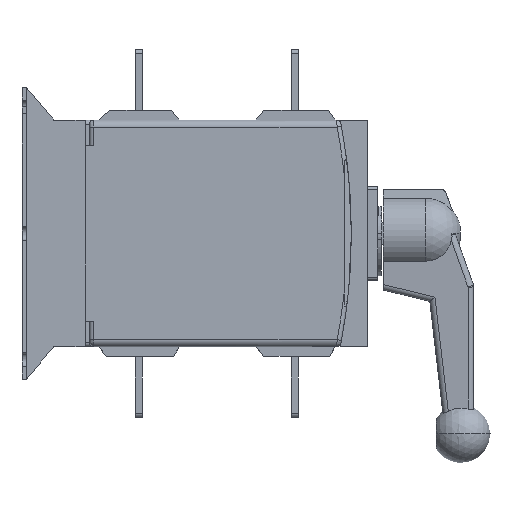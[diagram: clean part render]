
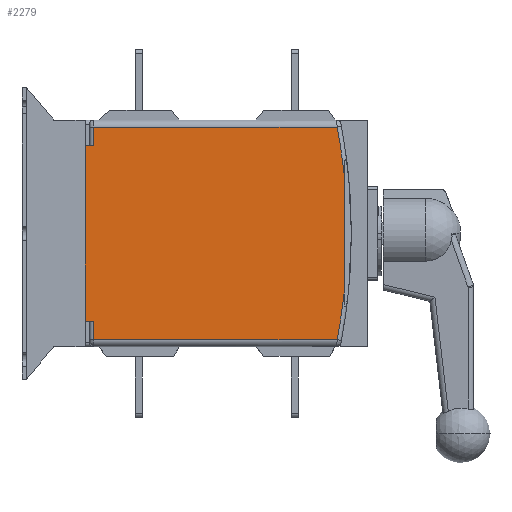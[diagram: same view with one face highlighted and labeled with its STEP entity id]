
A CAD part, left-side view. The second image highlights one B-rep face of the part: STEP entity #2279.
In plain terms, the highlighted planar face has unit normal (-1, 0, 0).
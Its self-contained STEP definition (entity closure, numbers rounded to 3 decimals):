
#152=CARTESIAN_POINT('',(-115.,-174.917,
-75.));
#173=DIRECTION('',(0.,-1.,0.));
#174=VECTOR('',#173,171.917);
#175=CARTESIAN_POINT('',(-115.,-3.,-75.));
#176=LINE('',#175,#174);
#270=CARTESIAN_POINT('',(-115.,-179.77,
-42.078));
#353=DIRECTION('',(0.,0.,1.));
#354=VECTOR('',#353,84.151);
#355=CARTESIAN_POINT('',(-115.,-179.77,
-42.078));
#356=LINE('',#355,#354);
#433=DIRECTION('',(0.,0.,1.));
#434=VECTOR('',#433,124.);
#435=CARTESIAN_POINT('',(-115.,3.,-62.));
#436=LINE('',#435,#434);
#437=CARTESIAN_POINT('',(-114.98,227.755,-1.181));
#438=DIRECTION('',(1.,0.,0.));
#439=DIRECTION('',(0.,-0.983,0.186));
#440=AXIS2_PLACEMENT_3D('',#437,#438,#439);
#442=CARTESIAN_POINT('',(-114.983,228.152,1.238));
#443=DIRECTION('',(1.,0.,0.));
#444=DIRECTION('',(0.,-0.994,-0.106));
#445=AXIS2_PLACEMENT_3D('',#442,#443,#444);
#447=DIRECTION('',(0.,0.,-1.));
#448=VECTOR('',#447,13.);
#449=CARTESIAN_POINT('',(-115.,-3.,-62.));
#450=LINE('',#449,#448);
#455=DIRECTION('',(0.,-1.,0.));
#456=VECTOR('',#455,6.);
#457=CARTESIAN_POINT('',(-115.,3.,-62.));
#458=LINE('',#457,#456);
#845=DIRECTION('',(0.,1.,0.));
#846=VECTOR('',#845,6.);
#847=CARTESIAN_POINT('',(-115.,-3.,62.));
#848=LINE('',#847,#846);
#857=DIRECTION('',(0.,0.,-1.));
#858=VECTOR('',#857,13.);
#859=CARTESIAN_POINT('',(-115.,-3.,75.));
#860=LINE('',#859,#858);
#880=DIRECTION('',(0.,1.,0.));
#881=VECTOR('',#880,171.916);
#882=CARTESIAN_POINT('',(-115.,-174.916,75.));
#883=LINE('',#882,#881);
#1523=VERTEX_POINT('',#152);
#1526=CARTESIAN_POINT('',(-115.,-3.,-75.));
#1527=VERTEX_POINT('',#1526);
#1590=VERTEX_POINT('',#270);
#1591=CARTESIAN_POINT('',(-115.,-179.77,
42.073));
#1592=VERTEX_POINT('',#1591);
#1593=CARTESIAN_POINT('',(-115.,-3.,-62.));
#1594=VERTEX_POINT('',#1593);
#1595=CARTESIAN_POINT('',(-115.,3.,-62.));
#1596=VERTEX_POINT('',#1595);
#1597=CARTESIAN_POINT('',(-115.,3.,62.));
#1598=VERTEX_POINT('',#1597);
#1599=CARTESIAN_POINT('',(-115.,-3.,62.));
#1600=VERTEX_POINT('',#1599);
#1601=CARTESIAN_POINT('',(-115.,-3.,
75.));
#1602=VERTEX_POINT('',#1601);
#1603=CARTESIAN_POINT('',(-115.,-174.916,
75.));
#1604=VERTEX_POINT('',#1603);
#2255=CARTESIAN_POINT('',(-115.,0.,-80.));
#2256=DIRECTION('',(-1.,0.,0.));
#2257=DIRECTION('',(0.,0.,1.));
#2258=AXIS2_PLACEMENT_3D('',#2255,#2256,#2257);
#2259=PLANE('',#2258);
#2261=ORIENTED_EDGE('',*,*,#2260,.F.);
#2263=ORIENTED_EDGE('',*,*,#2262,.F.);
#2265=ORIENTED_EDGE('',*,*,#2264,.T.);
#2267=ORIENTED_EDGE('',*,*,#2266,.F.);
#2269=ORIENTED_EDGE('',*,*,#2268,.F.);
#2271=ORIENTED_EDGE('',*,*,#2270,.F.);
#2273=ORIENTED_EDGE('',*,*,#2272,.T.);
#2274=ORIENTED_EDGE('',*,*,#2246,.F.);
#2275=ORIENTED_EDGE('',*,*,#2235,.T.);
#2276=ORIENTED_EDGE('',*,*,#2021,.F.);
#2277=EDGE_LOOP('',(#2261,#2263,#2265,#2267,#2269,#2271,#2273,#2274,#2275,
#2276));
#2278=FACE_OUTER_BOUND('',#2277,.F.);
#441=CIRCLE('',#440,409.814);
#446=CIRCLE('',#445,410.215);
#2021=EDGE_CURVE('',#1527,#1523,#176,.T.);
#2235=EDGE_CURVE('',#1590,#1523,#446,.T.);
#2246=EDGE_CURVE('',#1590,#1592,#356,.T.);
#2260=EDGE_CURVE('',#1594,#1527,#450,.T.);
#2262=EDGE_CURVE('',#1596,#1594,#458,.T.);
#2264=EDGE_CURVE('',#1596,#1598,#436,.T.);
#2266=EDGE_CURVE('',#1600,#1598,#848,.T.);
#2268=EDGE_CURVE('',#1602,#1600,#860,.T.);
#2270=EDGE_CURVE('',#1604,#1602,#883,.T.);
#2272=EDGE_CURVE('',#1604,#1592,#441,.T.);
#2279=ADVANCED_FACE('',(#2278),#2259,.T.);
